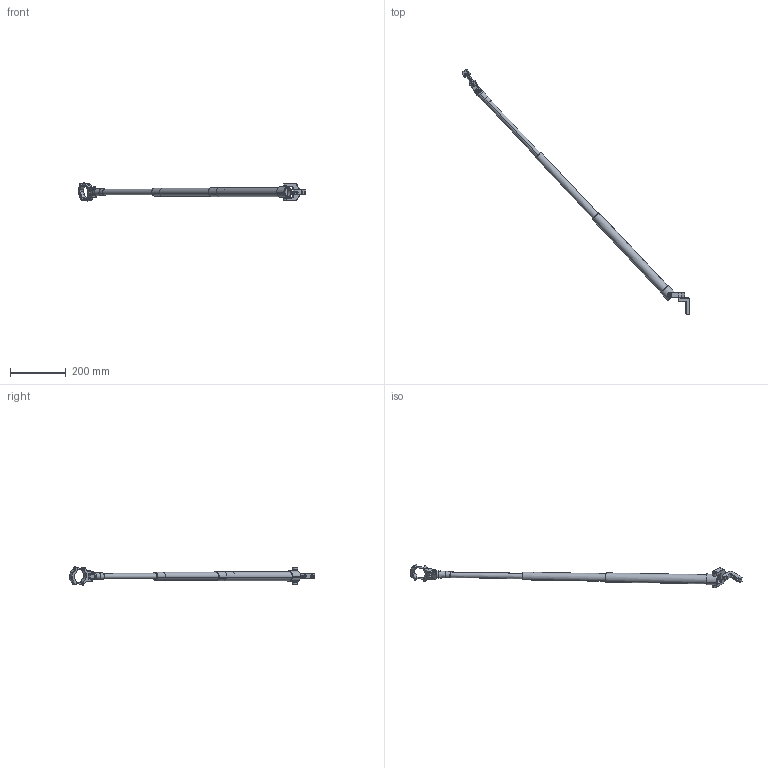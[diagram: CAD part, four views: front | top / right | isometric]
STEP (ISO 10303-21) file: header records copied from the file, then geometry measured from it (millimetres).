
FILE_DESCRIPTION (( 'STEP AP214' ), '1' );
FILE_NAME ('CAR502.STEP', '2015-10-01T07:14:45', ( '' ), ( '' ), 'SwSTEP 2.0', 'SolidWorks 2015', '' );
FILE_SCHEMA (( 'AUTOMOTIVE_DESIGN' ));
Length unit declared in the file: millimetre
Products named in the file (1): CAR502
Bounding box: 817.28 x 879.94 x 65.36 mm (x, y, z)
Volume: 280213.5 mm3; surface area: 251952.8 mm2
Topology: 19 solids, 19 shells, 512 faces, 1132 edges, 687 vertices
Faces by surface type: plane 206, cylinder 179, cone 123, torus 4
Entity records: 20328 total; most frequent: CARTESIAN_POINT 2830, DIRECTION 2578, ORIENTED_EDGE 2260, EDGE_CURVE 1130, AXIS2_PLACEMENT_3D 969, VERTEX_POINT 687, LINE 640, VECTOR 640
